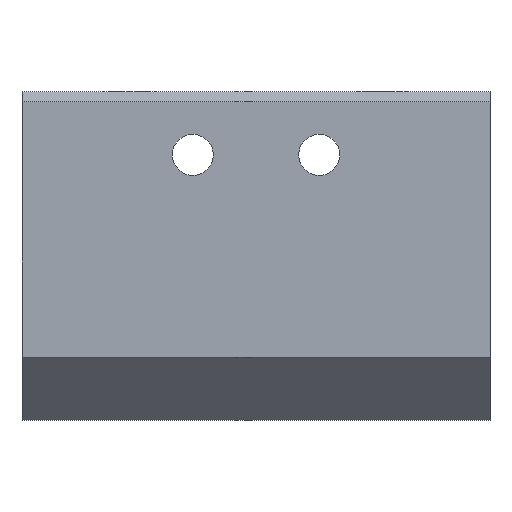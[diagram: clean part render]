
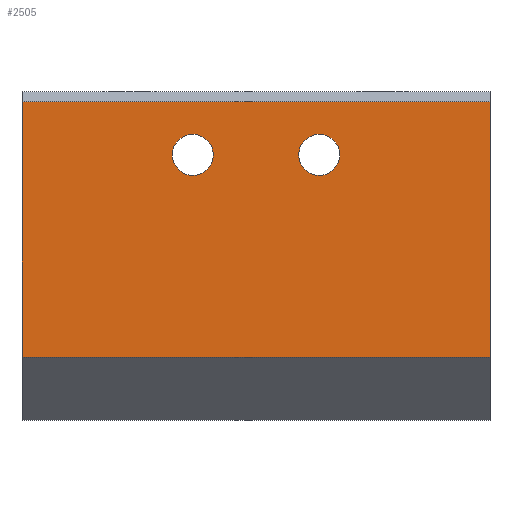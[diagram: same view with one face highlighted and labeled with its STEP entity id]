
A CAD part, front view. The second image highlights one B-rep face of the part: STEP entity #2505.
In plain terms, the highlighted planar face has unit normal (0, -1, 0).
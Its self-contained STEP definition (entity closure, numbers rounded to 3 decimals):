
#1355=CARTESIAN_POINT('',(37.0,-10.,15.2));
#1356=VERTEX_POINT('',#1355);
#1373=CARTESIAN_POINT('',(0.0,-10.,15.2));
#1374=VERTEX_POINT('',#1373);
#1381=CARTESIAN_POINT('',(0.0,-10.,15.2));
#1382=DIRECTION('',(1.0,0.0,0.0));
#1383=VECTOR('',#1382,37.0);
#1384=LINE('',#1381,#1383);
#1385=EDGE_CURVE('',#1374,#1356,#1384,.T.);
#1436=CARTESIAN_POINT('',(0.0,-10.0,-5.));
#1437=VERTEX_POINT('',#1436);
#1444=CARTESIAN_POINT('',(0.0,-10.0,-5.));
#1445=DIRECTION('',(0.0,0.0,1.0));
#1446=VECTOR('',#1445,20.2);
#1447=LINE('',#1444,#1446);
#1448=EDGE_CURVE('',#1437,#1374,#1447,.T.);
#1541=CARTESIAN_POINT('',(37.0,-10.0,-5.));
#1542=VERTEX_POINT('',#1541);
#1549=CARTESIAN_POINT('',(37.0,-10.0,-5.));
#1550=DIRECTION('',(-1.0,0.0,0.0));
#1551=VECTOR('',#1550,37.0);
#1552=LINE('',#1549,#1551);
#1553=EDGE_CURVE('',#1542,#1437,#1552,.T.);
#2239=CARTESIAN_POINT('',(25.121,-10.0,11.));
#2240=VERTEX_POINT('',#2239);
#2241=CARTESIAN_POINT('',(23.5,-10.0,11.));
#2242=DIRECTION('',(0.0,1.0,0.0));
#2243=DIRECTION('',(-1.0,0.0,0.0));
#2244=AXIS2_PLACEMENT_3D('',#2241,#2242,#2243);
#2245=CIRCLE('',#2244,1.621);
#2246=EDGE_CURVE('',#2240,#2240,#2245,.T.);
#2349=CARTESIAN_POINT('',(15.121,-10.0,11.));
#2350=VERTEX_POINT('',#2349);
#2351=CARTESIAN_POINT('',(13.5,-10.0,11.));
#2352=DIRECTION('',(0.0,1.0,0.0));
#2353=DIRECTION('',(-1.0,0.0,0.0));
#2354=AXIS2_PLACEMENT_3D('',#2351,#2352,#2353);
#2355=CIRCLE('',#2354,1.621);
#2356=EDGE_CURVE('',#2350,#2350,#2355,.T.);
#2483=CARTESIAN_POINT('',(0.0,-10.,-10.));
#2484=DIRECTION('',(0.0,-1.0,0.0));
#2485=DIRECTION('',(0.0,0.0,-1.0));
#2486=AXIS2_PLACEMENT_3D('',#2483,#2484,#2485);
#2487=PLANE('',#2486);
#2488=ORIENTED_EDGE('',*,*,#1385,.F.);
#2489=ORIENTED_EDGE('',*,*,#1448,.F.);
#2490=ORIENTED_EDGE('',*,*,#1553,.F.);
#2491=CARTESIAN_POINT('',(37.0,-10.0,-5.));
#2492=DIRECTION('',(0.0,0.0,1.0));
#2493=VECTOR('',#2492,20.2);
#2494=LINE('',#2491,#2493);
#2495=EDGE_CURVE('',#1542,#1356,#2494,.T.);
#2496=ORIENTED_EDGE('',*,*,#2495,.T.);
#2497=EDGE_LOOP('',(#2488,#2489,#2490,#2496));
#2498=FACE_OUTER_BOUND('',#2497,.T.);
#2499=ORIENTED_EDGE('',*,*,#2246,.T.);
#2500=EDGE_LOOP('',(#2499));
#2501=FACE_BOUND('',#2500,.T.);
#2502=ORIENTED_EDGE('',*,*,#2356,.T.);
#2503=EDGE_LOOP('',(#2502));
#2504=FACE_BOUND('',#2503,.T.);
#2505=ADVANCED_FACE('',(#2498,#2501,#2504),#2487,.T.);
